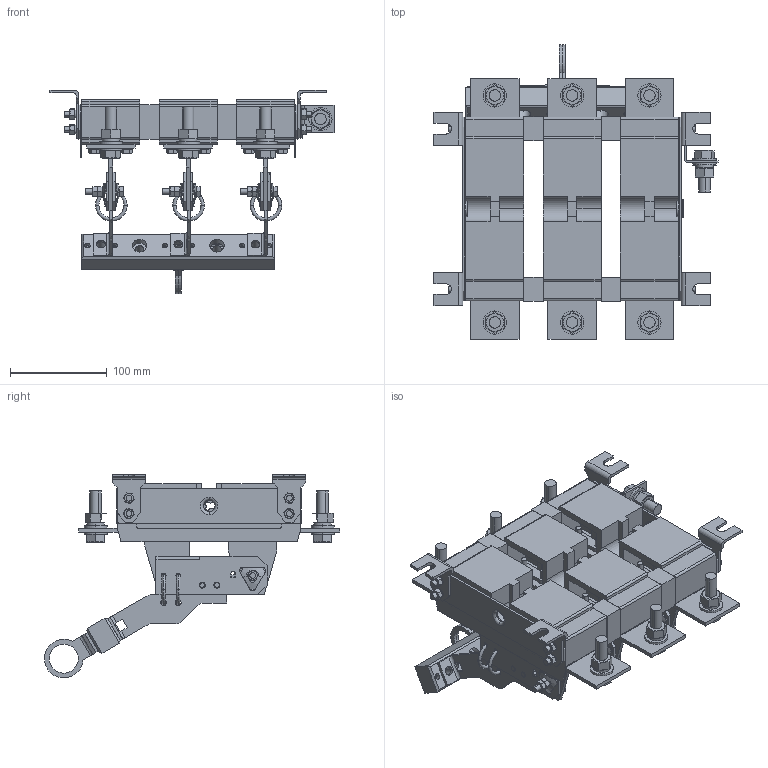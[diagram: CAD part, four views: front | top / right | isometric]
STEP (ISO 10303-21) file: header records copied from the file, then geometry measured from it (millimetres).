
FILE_DESCRIPTION (( 'STEP AP214' ), '1' );
FILE_NAME ('Ðàçúåäèíèòåëü ÐÅ19-39-31190-630À-ÓÕË3-ÊÝÀÇ.STEP', '2023-08-21T08:38:02', ( '' ), ( '' ), 'SwSTEP 2.0', 'SolidWorks 2018', '' );
FILE_SCHEMA (( 'AUTOMOTIVE_DESIGN' ));
Length unit declared in the file: millimetre
Products named in the file (1): Ðàçúåäèíèòåëü ÐÅ19-39-31190-630À-ÓÕË3-ÊÝÀÇ
Bounding box: 294 x 305.44 x 211.08 mm (x, y, z)
Surface area: 554511.7 mm2 (no closed solid volume)
Topology: 0 solids, 215 shells, 1764 faces, 5768 edges, 4194 vertices
Faces by surface type: plane 1040, cylinder 483, cone 165, torus 64, sphere 12
Entity records: 85508 total; most frequent: CARTESIAN_POINT 16038, DIRECTION 10428, ORIENTED_EDGE 9221, EDGE_CURVE 5740, VERTEX_POINT 4194, AXIS2_PLACEMENT_3D 3694, VECTOR 3040, LINE 3040
